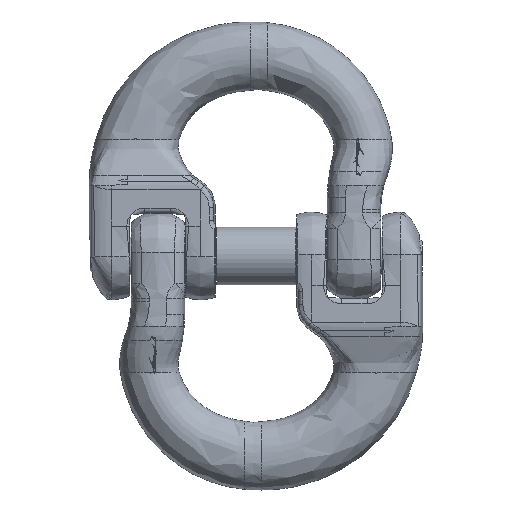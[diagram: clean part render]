
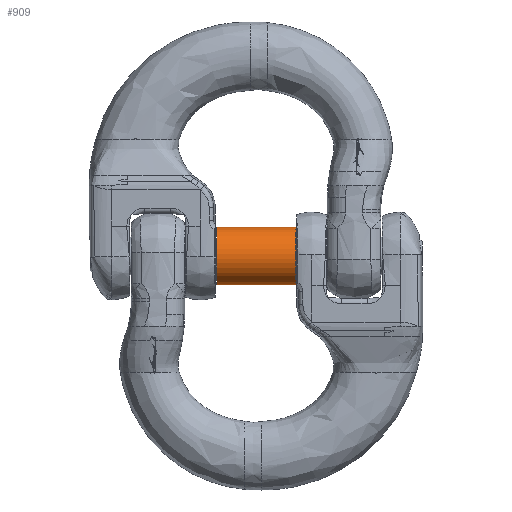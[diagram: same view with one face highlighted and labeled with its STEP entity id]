
A CAD part, top view. The second image highlights one B-rep face of the part: STEP entity #909.
In plain terms, the highlighted cylindrical face has radius 16.906 mm (diameter 33.812 mm), a partial arc.
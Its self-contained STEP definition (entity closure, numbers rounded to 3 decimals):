
#167=CYLINDRICAL_SURFACE('',#6412,16.906);
#388=CIRCLE('',#6404,16.906);
#391=CIRCLE('',#6411,16.906);
#556=LINE('',#16426,#684);
#561=LINE('',#16438,#689);
#684=VECTOR('',#6943,1.);
#689=VECTOR('',#6954,1.);
#909=ADVANCED_FACE('',(#1229),#167,.T.);
#1229=FACE_OUTER_BOUND('',#1528,.T.);
#1528=EDGE_LOOP('',(#2711,#2712,#2713,#2714));
#2711=ORIENTED_EDGE('',*,*,#5003,.T.);
#2712=ORIENTED_EDGE('',*,*,#5004,.F.);
#2713=ORIENTED_EDGE('',*,*,#4997,.F.);
#2714=ORIENTED_EDGE('',*,*,#4993,.T.);
#4102=VERTEX_POINT('',#16418);
#4103=VERTEX_POINT('',#16419);
#4106=VERTEX_POINT('',#16427);
#4109=VERTEX_POINT('',#16437);
#4993=EDGE_CURVE('',#4102,#4103,#388,.T.);
#4997=EDGE_CURVE('',#4102,#4106,#556,.T.);
#5003=EDGE_CURVE('',#4103,#4109,#561,.T.);
#5004=EDGE_CURVE('',#4106,#4109,#391,.T.);
#6404=AXIS2_PLACEMENT_3D('',#16417,#6935,#6936);
#6411=AXIS2_PLACEMENT_3D('',#16440,#6957,#6958);
#6412=AXIS2_PLACEMENT_3D('',#16441,#6959,#6960);
#6935=DIRECTION('',(-1.,0.,0.));
#6936=DIRECTION('',(0.,0.,-1.));
#6943=DIRECTION('',(-1.,0.,0.));
#6954=DIRECTION('',(-1.,0.,0.));
#6957=DIRECTION('',(-1.,0.,0.));
#6958=DIRECTION('',(0.,0.,-1.));
#6959=DIRECTION('',(-1.,0.,0.));
#6960=DIRECTION('',(0.,0.,1.));
#16417=CARTESIAN_POINT('',(24.712,10.645,0.483));
#16418=CARTESIAN_POINT('',(24.712,27.479,-1.079));
#16419=CARTESIAN_POINT('',(24.712,27.479,2.046));
#16426=CARTESIAN_POINT('',(24.712,27.479,-1.079));
#16427=CARTESIAN_POINT('',(-21.563,27.479,-1.079));
#16437=CARTESIAN_POINT('',(-21.563,27.479,2.046));
#16438=CARTESIAN_POINT('',(24.712,27.479,2.046));
#16440=CARTESIAN_POINT('',(-21.563,10.645,0.483));
#16441=CARTESIAN_POINT('',(24.712,10.645,0.483));
